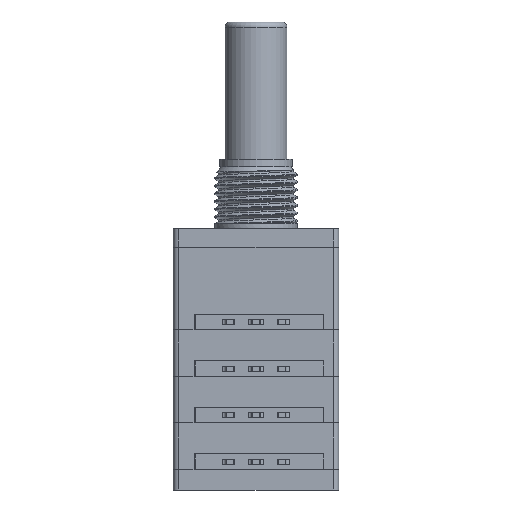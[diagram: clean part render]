
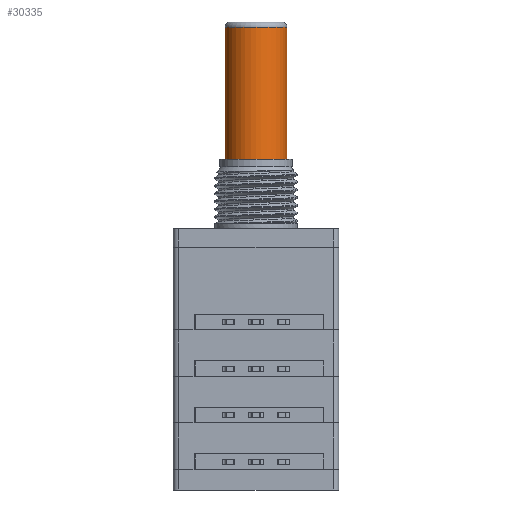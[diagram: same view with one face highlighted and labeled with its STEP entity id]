
A CAD part, front view. The second image highlights one B-rep face of the part: STEP entity #30335.
In plain terms, the highlighted cylindrical face has radius 3 mm (diameter 6 mm), a full revolution.
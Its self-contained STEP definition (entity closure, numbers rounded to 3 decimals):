
#30266 = PLANE('',#30267);
#30267 = AXIS2_PLACEMENT_3D('',#30268,#30269,#30270);
#30268 = CARTESIAN_POINT('',(0.,0.,6.7));
#30269 = DIRECTION('',(0.,0.,1.));
#30270 = DIRECTION('',(1.,0.,0.));
#30307 = EDGE_CURVE('',#30308,#30308,#30310,.T.);
#30308 = VERTEX_POINT('',#30309);
#30309 = CARTESIAN_POINT('',(3.,0.,6.7));
#30310 = SURFACE_CURVE('',#30311,(#30316,#30323),.PCURVE_S1.);
#30311 = CIRCLE('',#30312,3.);
#30312 = AXIS2_PLACEMENT_3D('',#30313,#30314,#30315);
#30313 = CARTESIAN_POINT('',(0.,0.,6.7));
#30314 = DIRECTION('',(0.,0.,1.));
#30315 = DIRECTION('',(1.,0.,0.));
#30316 = PCURVE('',#30266,#30317);
#30317 = DEFINITIONAL_REPRESENTATION('',(#30318),#30322);
#30318 = CIRCLE('',#30319,3.);
#30319 = AXIS2_PLACEMENT_2D('',#30320,#30321);
#30320 = CARTESIAN_POINT('',(0.,0.));
#30321 = DIRECTION('',(1.,0.));
#30322 = ( GEOMETRIC_REPRESENTATION_CONTEXT(2) 
PARAMETRIC_REPRESENTATION_CONTEXT() REPRESENTATION_CONTEXT('2D SPACE',''
  ) );
#30323 = PCURVE('',#30324,#30329);
#30324 = CYLINDRICAL_SURFACE('',#30325,3.);
#30325 = AXIS2_PLACEMENT_3D('',#30326,#30327,#30328);
#30326 = CARTESIAN_POINT('',(0.,0.,3.));
#30327 = DIRECTION('',(-0.,-0.,-1.));
#30328 = DIRECTION('',(1.,0.,0.));
#30329 = DEFINITIONAL_REPRESENTATION('',(#30330),#30334);
#30330 = LINE('',#30331,#30332);
#30331 = CARTESIAN_POINT('',(-0.,-3.7));
#30332 = VECTOR('',#30333,1.);
#30333 = DIRECTION('',(-1.,0.));
#30334 = ( GEOMETRIC_REPRESENTATION_CONTEXT(2) 
PARAMETRIC_REPRESENTATION_CONTEXT() REPRESENTATION_CONTEXT('2D SPACE',''
  ) );
#30335 = ADVANCED_FACE('',(#30336),#30324,.T.);
#30336 = FACE_BOUND('',#30337,.F.);
#30337 = EDGE_LOOP('',(#30338,#30361,#30362,#30363));
#30338 = ORIENTED_EDGE('',*,*,#30339,.F.);
#30339 = EDGE_CURVE('',#30308,#30340,#30342,.T.);
#30340 = VERTEX_POINT('',#30341);
#30341 = CARTESIAN_POINT('',(3.,0.,19.5));
#30342 = SEAM_CURVE('',#30343,(#30347,#30354),.PCURVE_S1.);
#30343 = LINE('',#30344,#30345);
#30344 = CARTESIAN_POINT('',(3.,0.,3.));
#30345 = VECTOR('',#30346,1.);
#30346 = DIRECTION('',(0.,0.,1.));
#30347 = PCURVE('',#30324,#30348);
#30348 = DEFINITIONAL_REPRESENTATION('',(#30349),#30353);
#30349 = LINE('',#30350,#30351);
#30350 = CARTESIAN_POINT('',(-6.283,0.));
#30351 = VECTOR('',#30352,1.);
#30352 = DIRECTION('',(-0.,-1.));
#30353 = ( GEOMETRIC_REPRESENTATION_CONTEXT(2) 
PARAMETRIC_REPRESENTATION_CONTEXT() REPRESENTATION_CONTEXT('2D SPACE',''
  ) );
#30354 = PCURVE('',#30324,#30355);
#30355 = DEFINITIONAL_REPRESENTATION('',(#30356),#30360);
#30356 = LINE('',#30357,#30358);
#30357 = CARTESIAN_POINT('',(-0.,0.));
#30358 = VECTOR('',#30359,1.);
#30359 = DIRECTION('',(-0.,-1.));
#30360 = ( GEOMETRIC_REPRESENTATION_CONTEXT(2) 
PARAMETRIC_REPRESENTATION_CONTEXT() REPRESENTATION_CONTEXT('2D SPACE',''
  ) );
#30361 = ORIENTED_EDGE('',*,*,#30307,.F.);
#30362 = ORIENTED_EDGE('',*,*,#30339,.T.);
#30363 = ORIENTED_EDGE('',*,*,#30364,.T.);
#30364 = EDGE_CURVE('',#30340,#30340,#30365,.T.);
#30365 = SURFACE_CURVE('',#30366,(#30371,#30378),.PCURVE_S1.);
#30366 = CIRCLE('',#30367,3.);
#30367 = AXIS2_PLACEMENT_3D('',#30368,#30369,#30370);
#30368 = CARTESIAN_POINT('',(0.,0.,19.5));
#30369 = DIRECTION('',(0.,0.,1.));
#30370 = DIRECTION('',(1.,0.,0.));
#30371 = PCURVE('',#30324,#30372);
#30372 = DEFINITIONAL_REPRESENTATION('',(#30373),#30377);
#30373 = LINE('',#30374,#30375);
#30374 = CARTESIAN_POINT('',(-0.,-16.5));
#30375 = VECTOR('',#30376,1.);
#30376 = DIRECTION('',(-1.,0.));
#30377 = ( GEOMETRIC_REPRESENTATION_CONTEXT(2) 
PARAMETRIC_REPRESENTATION_CONTEXT() REPRESENTATION_CONTEXT('2D SPACE',''
  ) );
#30378 = PCURVE('',#30379,#30384);
#30379 = TOROIDAL_SURFACE('',#30380,2.5,0.5);
#30380 = AXIS2_PLACEMENT_3D('',#30381,#30382,#30383);
#30381 = CARTESIAN_POINT('',(0.,0.,19.5));
#30382 = DIRECTION('',(0.,0.,1.));
#30383 = DIRECTION('',(1.,0.,0.));
#30384 = DEFINITIONAL_REPRESENTATION('',(#30385),#30389);
#30385 = LINE('',#30386,#30387);
#30386 = CARTESIAN_POINT('',(0.,0.));
#30387 = VECTOR('',#30388,1.);
#30388 = DIRECTION('',(1.,0.));
#30389 = ( GEOMETRIC_REPRESENTATION_CONTEXT(2) 
PARAMETRIC_REPRESENTATION_CONTEXT() REPRESENTATION_CONTEXT('2D SPACE',''
  ) );
